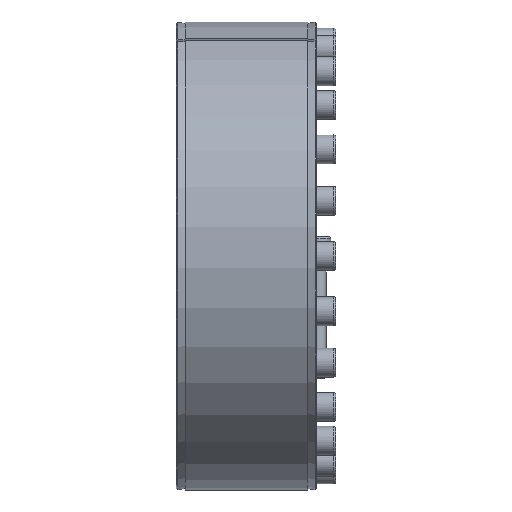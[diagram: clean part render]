
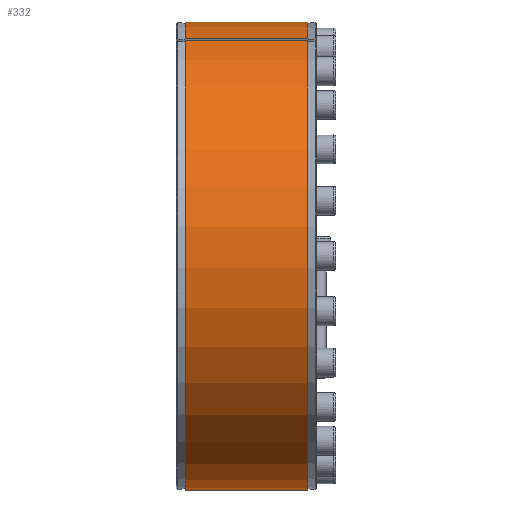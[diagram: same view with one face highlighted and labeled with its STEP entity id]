
A CAD part, left-side view. The second image highlights one B-rep face of the part: STEP entity #332.
In plain terms, the highlighted cylindrical face has radius 267.5 mm (diameter 535 mm), a partial arc.
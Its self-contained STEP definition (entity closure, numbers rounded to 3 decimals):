
#332 = ADVANCED_FACE( '', ( #886 ), #887, .T. );
#886 = FACE_OUTER_BOUND( '', #1458, .T. );
#887 = CYLINDRICAL_SURFACE( '', #1459, 267.5 );
#1458 = EDGE_LOOP( '', ( #2376, #2377, #2378, #2379 ) );
#1459 = AXIS2_PLACEMENT_3D( '', #2380, #2381, #2382 );
#2376 = ORIENTED_EDGE( '', *, *, #2758, .T. );
#2377 = ORIENTED_EDGE( '', *, *, #2472, .T. );
#2378 = ORIENTED_EDGE( '', *, *, #2642, .F. );
#2379 = ORIENTED_EDGE( '', *, *, #2648, .T. );
#2380 = CARTESIAN_POINT( '', ( 0., -60., 0. ) );
#2381 = DIRECTION( '', ( 0., 1., 0. ) );
#2382 = DIRECTION( '', ( 0., 0., -1. ) );
#2472 = EDGE_CURVE( '', #2867, #2865, #2868, .T. );
#2642 = EDGE_CURVE( '', #3148, #2865, #3149, .T. );
#2648 = EDGE_CURVE( '', #3148, #3155, #3157, .F. );
#2758 = EDGE_CURVE( '', #3155, #2867, #3325, .T. );
#2865 = VERTEX_POINT( '', #3551 );
#2867 = VERTEX_POINT( '', #3554 );
#2868 = LINE( '', #3555, #3556 );
#3148 = VERTEX_POINT( '', #3865 );
#3149 = CIRCLE( '', #3866, 267.5 );
#3155 = VERTEX_POINT( '', #3877 );
#3157 = LINE( '', #3880, #3881 );
#3325 = CIRCLE( '', #4072, 267.5 );
#3551 = CARTESIAN_POINT( '', ( -99.59, 10., 248.27 ) );
#3554 = CARTESIAN_POINT( '', ( -99.59, 150., 248.27 ) );
#3555 = CARTESIAN_POINT( '', ( -99.59, -60., 248.27 ) );
#3556 = VECTOR( '', #4128, 1000. );
#3865 = CARTESIAN_POINT( '', ( -105.133, 10., 245.974 ) );
#3866 = AXIS2_PLACEMENT_3D( '', #4449, #4450, #4451 );
#3877 = CARTESIAN_POINT( '', ( -105.133, 150., 245.974 ) );
#3880 = CARTESIAN_POINT( '', ( -105.133, -60., 245.974 ) );
#3881 = VECTOR( '', #4455, 1000. );
#4072 = AXIS2_PLACEMENT_3D( '', #4638, #4639, #4640 );
#4128 = DIRECTION( '', ( 0., -1., 0. ) );
#4449 = CARTESIAN_POINT( '', ( 0., 10., 0. ) );
#4450 = DIRECTION( '', ( 0., -1., 0. ) );
#4451 = DIRECTION( '', ( 0., 0., -1. ) );
#4455 = DIRECTION( '', ( 0., -1., 0. ) );
#4638 = CARTESIAN_POINT( '', ( 0., 150., 0. ) );
#4639 = DIRECTION( '', ( 0., -1., 0. ) );
#4640 = DIRECTION( '', ( 0., 0., -1. ) );
